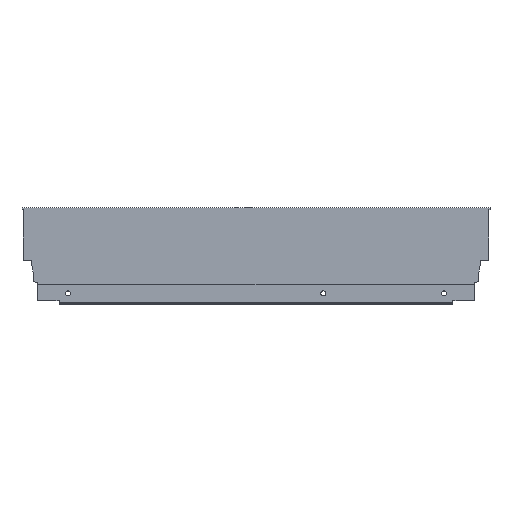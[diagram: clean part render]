
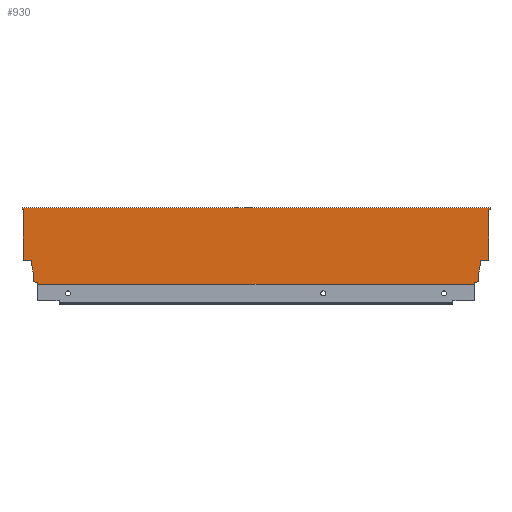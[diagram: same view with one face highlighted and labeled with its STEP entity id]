
A CAD part, top view. The second image highlights one B-rep face of the part: STEP entity #930.
In plain terms, the highlighted planar face has unit normal (0, 0, 1).
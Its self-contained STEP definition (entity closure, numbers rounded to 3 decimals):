
#60 = EDGE_CURVE ( 'NONE', #674, #654, #682, .T. ) ;
#78 = EDGE_CURVE ( 'NONE', #660, #657, #583, .T. ) ;
#82 = EDGE_CURVE ( 'NONE', #624, #617, #588, .T. ) ;
#84 = EDGE_CURVE ( 'NONE', #651, #641, #548, .T. ) ;
#85 = EDGE_CURVE ( 'NONE', #618, #647, #551, .T. ) ;
#86 = EDGE_CURVE ( 'NONE', #1174, #640, #555, .T. ) ;
#87 = EDGE_CURVE ( 'NONE', #624, #651, #550, .T. ) ;
#88 = EDGE_CURVE ( 'NONE', #626, #652, #567, .T. ) ;
#89 = EDGE_CURVE ( 'NONE', #657, #641, #549, .T. ) ;
#90 = EDGE_CURVE ( 'NONE', #631, #626, #563, .T. ) ;
#91 = EDGE_CURVE ( 'NONE', #617, #648, #554, .T. ) ;
#92 = EDGE_CURVE ( 'NONE', #654, #631, #568, .T. ) ;
#93 = EDGE_CURVE ( 'NONE', #640, #660, #545, .T. ) ;
#94 = EDGE_CURVE ( 'NONE', #1169, #674, #564, .T. ) ;
#95 = EDGE_CURVE ( 'NONE', #618, #1174, #541, .T. ) ;
#96 = EDGE_CURVE ( 'NONE', #648, #1169, #539, .T. ) ;
#97 = EDGE_CURVE ( 'NONE', #649, #647, #560, .T. ) ;
#99 = EDGE_CURVE ( 'NONE', #652, #649, #533, .T. ) ;
#188 = FACE_OUTER_BOUND ( 'NONE', #813, .T. ) ;
#301 = CARTESIAN_POINT ( 'NONE',  ( 1., 66.5, 7.5 ) ) ;
#306 = CARTESIAN_POINT ( 'NONE',  ( -401.996, 1.146, 7.5 ) ) ;
#399 = ORIENTED_EDGE ( 'NONE', *, *, #97, .F. ) ;
#400 = ORIENTED_EDGE ( 'NONE', *, *, #90, .F. ) ;
#401 = ORIENTED_EDGE ( 'NONE', *, *, #60, .F. ) ;
#402 = ORIENTED_EDGE ( 'NONE', *, *, #82, .F. ) ;
#404 = ORIENTED_EDGE ( 'NONE', *, *, #99, .F. ) ;
#427 = ORIENTED_EDGE ( 'NONE', *, *, #85, .T. ) ;
#428 = ORIENTED_EDGE ( 'NONE', *, *, #95, .F. ) ;
#429 = ORIENTED_EDGE ( 'NONE', *, *, #92, .F. ) ;
#430 = ORIENTED_EDGE ( 'NONE', *, *, #86, .F. ) ;
#431 = ORIENTED_EDGE ( 'NONE', *, *, #89, .F. ) ;
#434 = ORIENTED_EDGE ( 'NONE', *, *, #88, .F. ) ;
#440 = ORIENTED_EDGE ( 'NONE', *, *, #87, .T. ) ;
#441 = ORIENTED_EDGE ( 'NONE', *, *, #94, .F. ) ;
#442 = ORIENTED_EDGE ( 'NONE', *, *, #78, .F. ) ;
#444 = ORIENTED_EDGE ( 'NONE', *, *, #91, .F. ) ;
#445 = ORIENTED_EDGE ( 'NONE', *, *, #93, .F. ) ;
#446 = ORIENTED_EDGE ( 'NONE', *, *, #96, .F. ) ;
#447 = ORIENTED_EDGE ( 'NONE', *, *, #84, .T. ) ;
#532 = VECTOR ( 'NONE', #1238, 1000. ) ;
#533 = LINE ( 'NONE', #1237, #532 ) ;
#537 = VECTOR ( 'NONE', #1234, 1000. ) ;
#538 = VECTOR ( 'NONE', #1232, 1000. ) ;
#539 = LINE ( 'NONE', #1231, #538 ) ;
#540 = VECTOR ( 'NONE', #1230, 1000. ) ;
#541 = LINE ( 'NONE', #1229, #540 ) ;
#543 = VECTOR ( 'NONE', #1228, 1000. ) ;
#544 = VECTOR ( 'NONE', #1226, 1000. ) ;
#545 = LINE ( 'NONE', #1225, #544 ) ;
#548 = LINE ( 'NONE', #1207, #576 ) ;
#549 = LINE ( 'NONE', #1213, #565 ) ;
#550 = LINE ( 'NONE', #1209, #570 ) ;
#551 = LINE ( 'NONE', #1202, #553 ) ;
#553 = VECTOR ( 'NONE', #1210, 1000. ) ;
#554 = LINE ( 'NONE', #1217, #561 ) ;
#555 = LINE ( 'NONE', #1211, #569 ) ;
#556 = VECTOR ( 'NONE', #1127, 1000. ) ;
#559 = VECTOR ( 'NONE', #1224, 1000. ) ;
#560 = LINE ( 'NONE', #1227, #537 ) ;
#561 = VECTOR ( 'NONE', #1222, 1000. ) ;
#562 = VECTOR ( 'NONE', #1220, 1000. ) ;
#563 = LINE ( 'NONE', #1219, #562 ) ;
#564 = LINE ( 'NONE', #1223, #543 ) ;
#565 = VECTOR ( 'NONE', #1218, 1000. ) ;
#566 = VECTOR ( 'NONE', #1216, 1000. ) ;
#567 = LINE ( 'NONE', #1215, #566 ) ;
#568 = LINE ( 'NONE', #1221, #559 ) ;
#569 = VECTOR ( 'NONE', #1212, 1000. ) ;
#570 = VECTOR ( 'NONE', #1214, 1000. ) ;
#573 = VECTOR ( 'NONE', #1203, 1000. ) ;
#576 = VECTOR ( 'NONE', #1208, 1000. ) ;
#582 = VECTOR ( 'NONE', #1195, 1000. ) ;
#583 = LINE ( 'NONE', #1194, #582 ) ;
#588 = LINE ( 'NONE', #1198, #573 ) ;
#617 = VERTEX_POINT ( 'NONE', #1380 ) ;
#618 = VERTEX_POINT ( 'NONE', #1385 ) ;
#624 = VERTEX_POINT ( 'NONE', #1391 ) ;
#626 = VERTEX_POINT ( 'NONE', #1393 ) ;
#631 = VERTEX_POINT ( 'NONE', #1398 ) ;
#640 = VERTEX_POINT ( 'NONE', #1407 ) ;
#641 = VERTEX_POINT ( 'NONE', #1408 ) ;
#647 = VERTEX_POINT ( 'NONE', #1414 ) ;
#648 = VERTEX_POINT ( 'NONE', #1415 ) ;
#649 = VERTEX_POINT ( 'NONE', #1416 ) ;
#651 = VERTEX_POINT ( 'NONE', #1418 ) ;
#652 = VERTEX_POINT ( 'NONE', #1419 ) ;
#654 = VERTEX_POINT ( 'NONE', #1421 ) ;
#657 = VERTEX_POINT ( 'NONE', #1424 ) ;
#660 = VERTEX_POINT ( 'NONE', #1427 ) ;
#674 = VERTEX_POINT ( 'NONE', #1441 ) ;
#682 = LINE ( 'NONE', #1128, #556 ) ;
#813 = EDGE_LOOP ( 'NONE', ( #444, #402, #440, #447, #431, #442, #445, #430, #428, #427, #399, #404, #434, #400, #429, #401, #441, #446 ) ) ;
#930 = ADVANCED_FACE ( 'NONE', ( #188 ), #1508, .T. ) ;
#1026 = AXIS2_PLACEMENT_3D ( 'NONE', #1511, #1517, #1518 ) ;
#1127 = DIRECTION ( 'NONE',  ( 0., -1., 0. ) ) ;
#1128 = CARTESIAN_POINT ( 'NONE',  ( 0., 0., 7.5 ) ) ;
#1169 = VERTEX_POINT ( 'NONE', #301 ) ;
#1174 = VERTEX_POINT ( 'NONE', #306 ) ;
#1194 = CARTESIAN_POINT ( 'NONE',  ( -407.94, 21.2, 7.5 ) ) ;
#1195 = DIRECTION ( 'NONE',  ( -0.174, 0.985, 0. ) ) ;
#1198 = CARTESIAN_POINT ( 'NONE',  ( -416., 66.5, 7.5 ) ) ;
#1202 = CARTESIAN_POINT ( 'NONE',  ( -415., 0., 7.5 ) ) ;
#1203 = DIRECTION ( 'NONE',  ( 0., 1., 0. ) ) ;
#1207 = CARTESIAN_POINT ( 'NONE',  ( -415., 0., 7.5 ) ) ;
#1208 = DIRECTION ( 'NONE',  ( 0., -1., 0. ) ) ;
#1209 = CARTESIAN_POINT ( 'NONE',  ( -416., 66.5, 7.5 ) ) ;
#1210 = DIRECTION ( 'NONE',  ( 1., 0., 0. ) ) ;
#1211 = CARTESIAN_POINT ( 'NONE',  ( -406.1, 2.64, 7.5 ) ) ;
#1212 = DIRECTION ( 'NONE',  ( -0.94, 0.342, 0. ) ) ;
#1213 = CARTESIAN_POINT ( 'NONE',  ( -420., 21.2, 7.5 ) ) ;
#1214 = DIRECTION ( 'NONE',  ( 1., 0., 0. ) ) ;
#1215 = CARTESIAN_POINT ( 'NONE',  ( -8.9, 10.765, 7.5 ) ) ;
#1216 = DIRECTION ( 'NONE',  ( 0., -1., 0. ) ) ;
#1217 = CARTESIAN_POINT ( 'NONE',  ( -415., 68., 7.5 ) ) ;
#1218 = DIRECTION ( 'NONE',  ( -1., 0., 0. ) ) ;
#1219 = CARTESIAN_POINT ( 'NONE',  ( -7.06, 21.2, 7.5 ) ) ;
#1220 = DIRECTION ( 'NONE',  ( -0.174, -0.985, 0. ) ) ;
#1221 = CARTESIAN_POINT ( 'NONE',  ( 0., 21.2, 7.5 ) ) ;
#1222 = DIRECTION ( 'NONE',  ( 1., 0., 0. ) ) ;
#1223 = CARTESIAN_POINT ( 'NONE',  ( 1., 66.5, 7.5 ) ) ;
#1224 = DIRECTION ( 'NONE',  ( -1., 0., 0. ) ) ;
#1225 = CARTESIAN_POINT ( 'NONE',  ( -406.1, 10.765, 7.5 ) ) ;
#1226 = DIRECTION ( 'NONE',  ( 0., 1., 0. ) ) ;
#1227 = CARTESIAN_POINT ( 'NONE',  ( -13.004, 1.146, 7.5 ) ) ;
#1228 = DIRECTION ( 'NONE',  ( -1., 0., 0. ) ) ;
#1229 = CARTESIAN_POINT ( 'NONE',  ( -401.996, 1.146, 7.5 ) ) ;
#1230 = DIRECTION ( 'NONE',  ( 0., 1., 0. ) ) ;
#1231 = CARTESIAN_POINT ( 'NONE',  ( 1., 68., 7.5 ) ) ;
#1232 = DIRECTION ( 'NONE',  ( 0., -1., 0. ) ) ;
#1234 = DIRECTION ( 'NONE',  ( 0., -1., 0. ) ) ;
#1237 = CARTESIAN_POINT ( 'NONE',  ( -8.9, 2.64, 7.5 ) ) ;
#1238 = DIRECTION ( 'NONE',  ( -0.94, -0.342, 0. ) ) ;
#1380 = CARTESIAN_POINT ( 'NONE',  ( -416., 68., 7.5 ) ) ;
#1385 = CARTESIAN_POINT ( 'NONE',  ( -401.996, 0., 7.5 ) ) ;
#1391 = CARTESIAN_POINT ( 'NONE',  ( -416., 66.5, 7.5 ) ) ;
#1393 = CARTESIAN_POINT ( 'NONE',  ( -8.9, 10.765, 7.5 ) ) ;
#1398 = CARTESIAN_POINT ( 'NONE',  ( -7.06, 21.2, 7.5 ) ) ;
#1407 = CARTESIAN_POINT ( 'NONE',  ( -406.1, 2.64, 7.5 ) ) ;
#1408 = CARTESIAN_POINT ( 'NONE',  ( -415., 21.2, 7.5 ) ) ;
#1414 = CARTESIAN_POINT ( 'NONE',  ( -13.004, 0., 7.5 ) ) ;
#1415 = CARTESIAN_POINT ( 'NONE',  ( 1., 68., 7.5 ) ) ;
#1416 = CARTESIAN_POINT ( 'NONE',  ( -13.004, 1.146, 7.5 ) ) ;
#1418 = CARTESIAN_POINT ( 'NONE',  ( -415., 66.5, 7.5 ) ) ;
#1419 = CARTESIAN_POINT ( 'NONE',  ( -8.9, 2.64, 7.5 ) ) ;
#1421 = CARTESIAN_POINT ( 'NONE',  ( 0., 21.2, 7.5 ) ) ;
#1424 = CARTESIAN_POINT ( 'NONE',  ( -407.94, 21.2, 7.5 ) ) ;
#1427 = CARTESIAN_POINT ( 'NONE',  ( -406.1, 10.765, 7.5 ) ) ;
#1441 = CARTESIAN_POINT ( 'NONE',  ( 0., 66.5, 7.5 ) ) ;
#1508 = PLANE ( 'NONE',  #1026 ) ;
#1511 = CARTESIAN_POINT ( 'NONE',  ( -415., 0., 7.5 ) ) ;
#1517 = DIRECTION ( 'NONE',  ( 0., 0., 1. ) ) ;
#1518 = DIRECTION ( 'NONE',  ( 1., 0., 0. ) ) ;
